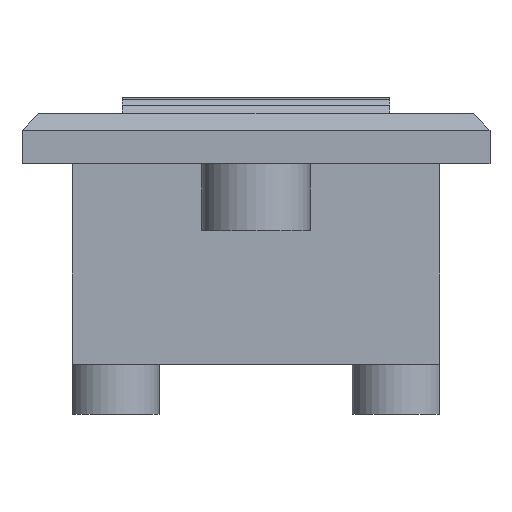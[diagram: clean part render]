
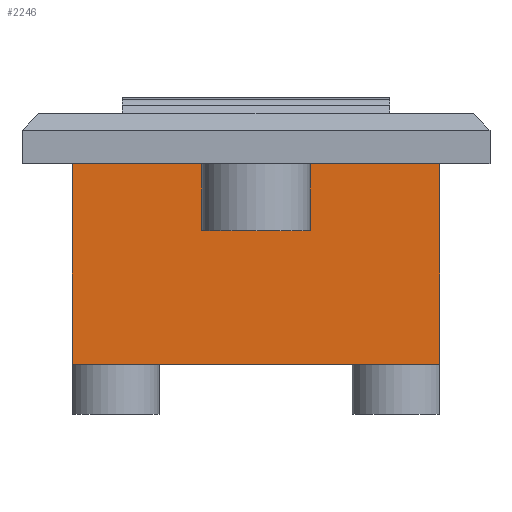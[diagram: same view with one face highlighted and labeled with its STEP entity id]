
A CAD part, front view. The second image highlights one B-rep face of the part: STEP entity #2246.
In plain terms, the highlighted planar face has unit normal (0, -1, 0).
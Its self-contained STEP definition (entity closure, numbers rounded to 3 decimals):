
#73 = CARTESIAN_POINT ( 'NONE',  ( -10.313, -29.717, -3. ) ) ;
#83 = CARTESIAN_POINT ( 'NONE',  ( 11.687, -29.717, -3. ) ) ;
#228 = CARTESIAN_POINT ( 'NONE',  ( -10.313, -29.717, -3. ) ) ;
#359 = EDGE_CURVE ( 'NONE', #920, #1656, #2227, .T. ) ;
#363 = VECTOR ( 'NONE', #2174, 1000. ) ;
#431 = ORIENTED_EDGE ( 'NONE', *, *, #3013, .T. ) ;
#564 = DIRECTION ( 'NONE',  ( 0., 0., -1. ) ) ;
#827 = EDGE_CURVE ( 'NONE', #1932, #2129, #1440, .T. ) ;
#920 = VERTEX_POINT ( 'NONE', #1756 ) ;
#1088 = CARTESIAN_POINT ( 'NONE',  ( -10.313, -29.717, -3. ) ) ;
#1098 = EDGE_CURVE ( 'NONE', #1932, #920, #2905, .T. ) ;
#1427 = DIRECTION ( 'NONE',  ( 1., 0., 0. ) ) ;
#1440 = LINE ( 'NONE', #228, #363 ) ;
#1536 = AXIS2_PLACEMENT_3D ( 'NONE', #73, #2226, #1995 ) ;
#1640 = ORIENTED_EDGE ( 'NONE', *, *, #1098, .F. ) ;
#1656 = VERTEX_POINT ( 'NONE', #1678 ) ;
#1678 = CARTESIAN_POINT ( 'NONE',  ( 11.687, -29.717, -15. ) ) ;
#1756 = CARTESIAN_POINT ( 'NONE',  ( 11.687, -29.717, -3. ) ) ;
#1821 = ORIENTED_EDGE ( 'NONE', *, *, #827, .T. ) ;
#1877 = EDGE_LOOP ( 'NONE', ( #431, #2804, #1640, #1821 ) ) ;
#1932 = VERTEX_POINT ( 'NONE', #1088 ) ;
#1989 = VECTOR ( 'NONE', #2189, 1000. ) ;
#1995 = DIRECTION ( 'NONE',  ( 0., 0., -1. ) ) ;
#2129 = VERTEX_POINT ( 'NONE', #3081 ) ;
#2141 = CARTESIAN_POINT ( 'NONE',  ( -10.313, -29.717, -3. ) ) ;
#2147 = CARTESIAN_POINT ( 'NONE',  ( -10.313, -29.717, -15. ) ) ;
#2174 = DIRECTION ( 'NONE',  ( 0., 0., -1. ) ) ;
#2189 = DIRECTION ( 'NONE',  ( 1., 0., 0. ) ) ;
#2226 = DIRECTION ( 'NONE',  ( 0., -1., 0. ) ) ;
#2227 = LINE ( 'NONE', #83, #2313 ) ;
#2246 = ADVANCED_FACE ( 'NONE', ( #2883 ), #2952, .T. ) ;
#2313 = VECTOR ( 'NONE', #564, 1000. ) ;
#2437 = VECTOR ( 'NONE', #1427, 1000. ) ;
#2804 = ORIENTED_EDGE ( 'NONE', *, *, #359, .F. ) ;
#2883 = FACE_OUTER_BOUND ( 'NONE', #1877, .T. ) ;
#2894 = LINE ( 'NONE', #2147, #2437 ) ;
#2905 = LINE ( 'NONE', #2141, #1989 ) ;
#2952 = PLANE ( 'NONE',  #1536 ) ;
#3013 = EDGE_CURVE ( 'NONE', #2129, #1656, #2894, .T. ) ;
#3081 = CARTESIAN_POINT ( 'NONE',  ( -10.313, -29.717, -15. ) ) ;
